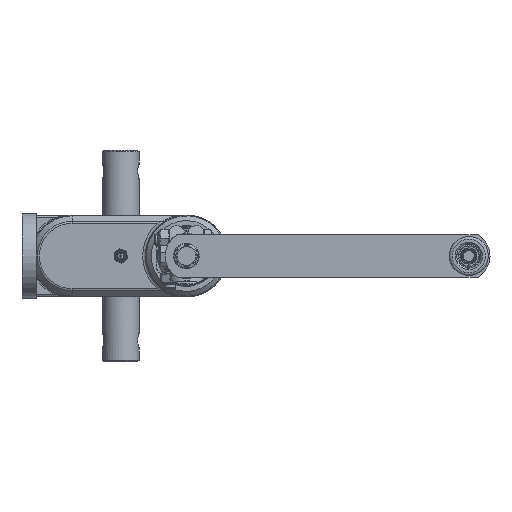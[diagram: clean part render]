
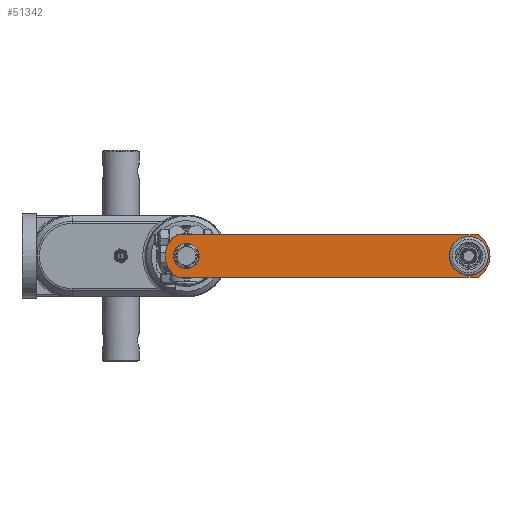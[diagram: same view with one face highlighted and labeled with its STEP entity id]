
A CAD part, front view. The second image highlights one B-rep face of the part: STEP entity #51342.
In plain terms, the highlighted planar face has unit normal (0, -1, 0).
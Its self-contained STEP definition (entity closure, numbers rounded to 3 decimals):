
#894=PLANE('',#55124);
#2184=FACE_BOUND('',#10259,.T.);
#2185=FACE_BOUND('',#10260,.T.);
#7194=FACE_OUTER_BOUND('',#10258,.T.);
#10258=EDGE_LOOP('',(#39250,#39251,#39252,#39253));
#10259=EDGE_LOOP('',(#39254));
#10260=EDGE_LOOP('',(#39255,#39256,#39257,#39258,#39259,#39260,#39261,#39262));
#13408=LINE('',#87445,#17384);
#13409=LINE('',#87446,#17385);
#13410=LINE('',#87449,#17386);
#13411=LINE('',#87453,#17387);
#13412=LINE('',#87456,#17388);
#13413=LINE('',#87458,#17389);
#17384=VECTOR('',#61725,10.);
#17385=VECTOR('',#61726,10.);
#17386=VECTOR('',#61727,10.);
#17387=VECTOR('',#61730,10.);
#17388=VECTOR('',#61733,10.);
#17389=VECTOR('',#61734,10.);
#21354=CIRCLE('',#55111,7.);
#21357=CIRCLE('',#55115,1.619);
#21359=CIRCLE('',#55118,17.5);
#21364=CIRCLE('',#55125,17.5);
#21365=CIRCLE('',#55126,1.619);
#21366=CIRCLE('',#55127,1.619);
#21367=CIRCLE('',#55128,1.619);
#23543=VERTEX_POINT('',#87399);
#23547=VERTEX_POINT('',#87408);
#23548=VERTEX_POINT('',#87410);
#23551=VERTEX_POINT('',#87417);
#23552=VERTEX_POINT('',#87419);
#23561=VERTEX_POINT('',#87442);
#23562=VERTEX_POINT('',#87443);
#23563=VERTEX_POINT('',#87447);
#23564=VERTEX_POINT('',#87448);
#23565=VERTEX_POINT('',#87450);
#23566=VERTEX_POINT('',#87452);
#23567=VERTEX_POINT('',#87454);
#23568=VERTEX_POINT('',#87457);
#29343=EDGE_CURVE('',#23543,#23543,#21354,.T.);
#29348=EDGE_CURVE('',#23547,#23548,#21357,.T.);
#29352=EDGE_CURVE('',#23552,#23551,#21359,.T.);
#29364=EDGE_CURVE('',#23561,#23562,#21364,.T.);
#29365=EDGE_CURVE('',#23562,#23552,#13408,.T.);
#29366=EDGE_CURVE('',#23561,#23551,#13409,.T.);
#29367=EDGE_CURVE('',#23563,#23564,#13410,.T.);
#29368=EDGE_CURVE('',#23564,#23565,#21365,.T.);
#29369=EDGE_CURVE('',#23566,#23565,#13411,.T.);
#29370=EDGE_CURVE('',#23566,#23567,#21366,.T.);
#29371=EDGE_CURVE('',#23548,#23567,#13412,.T.);
#29372=EDGE_CURVE('',#23547,#23568,#13413,.T.);
#29373=EDGE_CURVE('',#23563,#23568,#21367,.T.);
#39250=ORIENTED_EDGE('',*,*,#29364,.T.);
#39251=ORIENTED_EDGE('',*,*,#29365,.T.);
#39252=ORIENTED_EDGE('',*,*,#29352,.T.);
#39253=ORIENTED_EDGE('',*,*,#29366,.F.);
#39254=ORIENTED_EDGE('',*,*,#29343,.F.);
#39255=ORIENTED_EDGE('',*,*,#29367,.T.);
#39256=ORIENTED_EDGE('',*,*,#29368,.T.);
#39257=ORIENTED_EDGE('',*,*,#29369,.F.);
#39258=ORIENTED_EDGE('',*,*,#29370,.T.);
#39259=ORIENTED_EDGE('',*,*,#29371,.F.);
#39260=ORIENTED_EDGE('',*,*,#29348,.F.);
#39261=ORIENTED_EDGE('',*,*,#29372,.T.);
#39262=ORIENTED_EDGE('',*,*,#29373,.F.);
#51342=ADVANCED_FACE('',(#7194,#2184,#2185),#894,.T.);
#55111=AXIS2_PLACEMENT_3D('',#87400,#61684,#61685);
#55115=AXIS2_PLACEMENT_3D('',#87411,#61694,#61695);
#55118=AXIS2_PLACEMENT_3D('',#87420,#61702,#61703);
#55124=AXIS2_PLACEMENT_3D('',#87441,#61721,#61722);
#55125=AXIS2_PLACEMENT_3D('',#87444,#61723,#61724);
#55126=AXIS2_PLACEMENT_3D('',#87451,#61728,#61729);
#55127=AXIS2_PLACEMENT_3D('',#87455,#61731,#61732);
#55128=AXIS2_PLACEMENT_3D('',#87459,#61735,#61736);
#61684=DIRECTION('center_axis',(0.,-1.,0.));
#61685=DIRECTION('ref_axis',(-1.,0.,0.));
#61694=DIRECTION('center_axis',(0.,-1.,0.));
#61695=DIRECTION('ref_axis',(-0.707,0.,-0.707));
#61702=DIRECTION('center_axis',(0.,-1.,0.));
#61703=DIRECTION('ref_axis',(-0.515,0.,-0.857));
#61721=DIRECTION('center_axis',(0.,-1.,0.));
#61722=DIRECTION('ref_axis',(0.,0.,-1.));
#61723=DIRECTION('center_axis',(0.,-1.,0.));
#61724=DIRECTION('ref_axis',(0.515,0.,0.857));
#61725=DIRECTION('',(-1.,0.,0.));
#61726=DIRECTION('',(-1.,0.,0.));
#61727=DIRECTION('',(0.707,0.,-0.707));
#61728=DIRECTION('center_axis',(0.,1.,0.));
#61729=DIRECTION('ref_axis',(0.707,0.,-0.707));
#61730=DIRECTION('',(0.707,0.,0.707));
#61731=DIRECTION('center_axis',(0.,1.,0.));
#61732=DIRECTION('ref_axis',(-0.707,0.,-0.707));
#61733=DIRECTION('',(0.707,0.,-0.707));
#61734=DIRECTION('',(0.707,0.,0.707));
#61735=DIRECTION('center_axis',(0.,-1.,0.));
#61736=DIRECTION('ref_axis',(-0.707,0.,0.707));
#87399=CARTESIAN_POINT('',(193.035,-1044.,0.));
#87400=CARTESIAN_POINT('Origin',(200.035,-1044.,0.));
#87408=CARTESIAN_POINT('',(-7.34,-1044.,1.145));
#87410=CARTESIAN_POINT('',(-7.34,-1044.,-1.145));
#87411=CARTESIAN_POINT('Origin',(-6.196,-1044.,0.));
#87417=CARTESIAN_POINT('',(-6.479,-1044.,-15.));
#87419=CARTESIAN_POINT('',(-6.479,-1044.,15.));
#87420=CARTESIAN_POINT('Origin',(2.535,-1044.,0.));
#87441=CARTESIAN_POINT('Origin',(100.035,-1044.,15.001));
#87442=CARTESIAN_POINT('',(206.549,-1044.,-15.));
#87443=CARTESIAN_POINT('',(206.549,-1044.,15.));
#87444=CARTESIAN_POINT('Origin',(197.535,-1044.,0.));
#87445=CARTESIAN_POINT('',(206.549,-1044.,15.));
#87446=CARTESIAN_POINT('',(206.549,-1044.,-15.));
#87447=CARTESIAN_POINT('',(1.18,-1044.,7.376));
#87448=CARTESIAN_POINT('',(7.411,-1044.,1.145));
#87449=CARTESIAN_POINT('',(1.18,-1044.,7.376));
#87450=CARTESIAN_POINT('',(7.411,-1044.,-1.145));
#87451=CARTESIAN_POINT('Origin',(6.266,-1044.,0.));
#87452=CARTESIAN_POINT('',(1.18,-1044.,-7.376));
#87453=CARTESIAN_POINT('',(1.18,-1044.,-7.376));
#87454=CARTESIAN_POINT('',(-1.109,-1044.,-7.376));
#87455=CARTESIAN_POINT('Origin',(0.035,-1044.,-6.231));
#87456=CARTESIAN_POINT('',(-7.34,-1044.,-1.145));
#87457=CARTESIAN_POINT('',(-1.109,-1044.,7.376));
#87458=CARTESIAN_POINT('',(-7.34,-1044.,1.145));
#87459=CARTESIAN_POINT('Origin',(0.035,-1044.,6.231));
